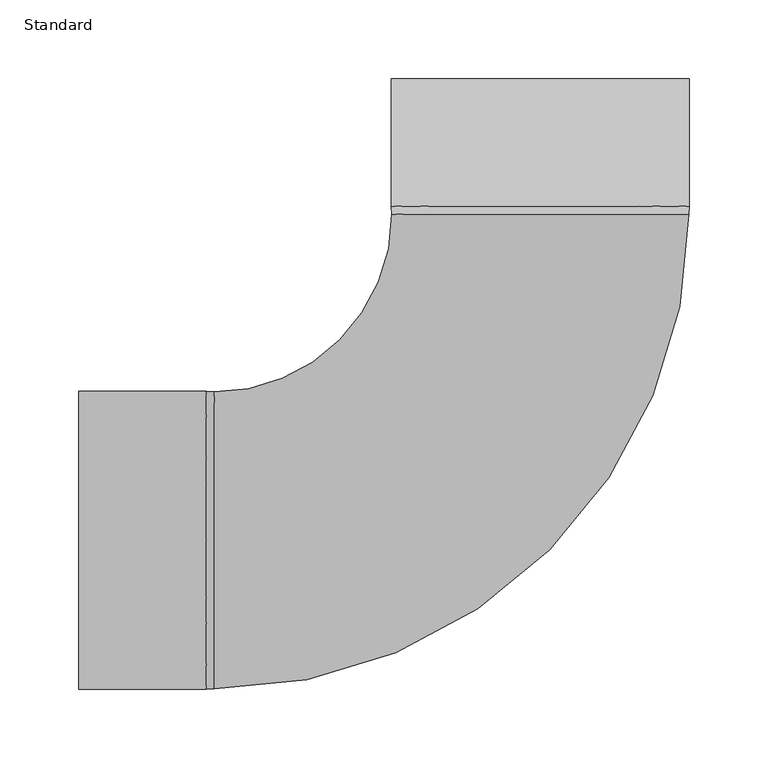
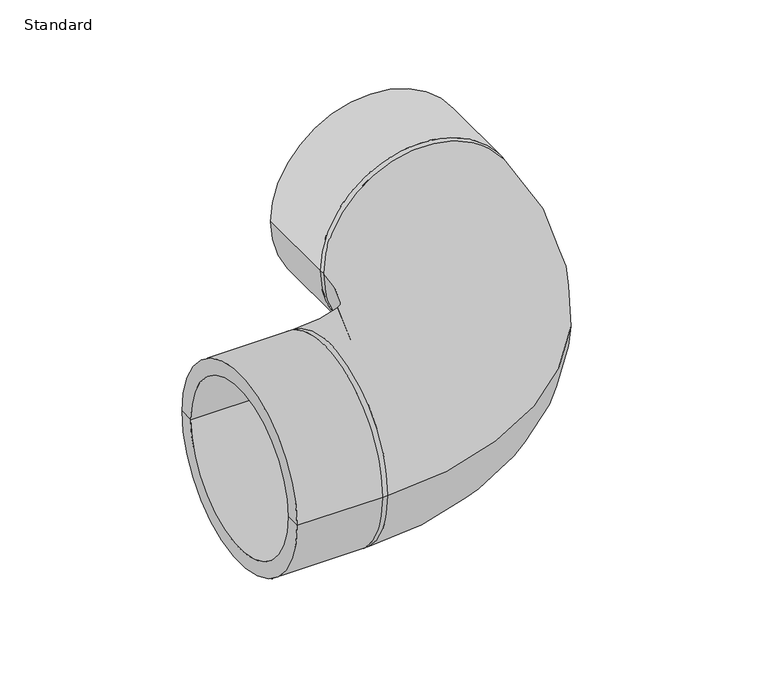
"""IFC4 building model written with IfcOpenShell, lengths in millimetres: pipe fitting geometry, Durapipe_PipeFitting_PVC_SR_Bend90deg : Standard."""

from ifc_helpers import new_model, si_unit, point, frame, origin, place, context, project, spatial, polyline, circle_curve, ellipse_curve, trimmed, source, transform, mapped, element, save
from ifc_brep_helpers import plane_surface, cylinder_surface, revolved_surface, advanced_brep


def standard_0ccd5c58(model_context):
    return source(origin(), model_context, "Body", "AdvancedBrep", [
        advanced_brep(
        [(94.5, 212.0, 0.0), (-94.5, 212.0, 0.0), (-94.5, 293.0, 0.0), (94.5, 293.0, 0.0), (94.2, 207.0, 0.0), (-94.2, 207.0, 0.0), (-80.0, 293.0, 0.0), (80.0, 293.0, 0.0), (-207.0, 94.2, 0.0), (-207.0, -94.2, 0.0), (-293.0, -80.0, 0.0), (-293.0, 80.0, 0.0), (-293.0, 94.5, 0.0), (-293.0, -94.5, 0.0), (-212.0, -94.5, 0.0), (-212.0, 94.5, 0.0), (-212.0, -80.0, 0.0), (-212.0, 80.0, 0.0), (-212.0, 0.0, 0.0), (80.0, 212.0, 0.0), (-80.0, 212.0, 0.0), (0.0, 212.0, 0.0)],
        [
            (0, 1, circle_curve(frame((0.0, 212.0, 0.0), z_axis=(0.0, 1.0, 0.0), x_axis=(-1.0, 0.0, 0.0)), 94.5)),
            (1, 2),
            (2, 3, circle_curve(frame((0.0, 293.0, 0.0), z_axis=(0.0, -1.0, 0.0), x_axis=(-1.0, 0.0, 0.0)), 94.5)),
            (3, 0),
            (1, 0, circle_curve(frame((0.0, 212.0, 0.0), z_axis=(0.0, 1.0, 0.0), x_axis=(-1.0, 0.0, 0.0)), 94.5)),
            (3, 2, circle_curve(frame((0.0, 293.0, 0.0), z_axis=(0.0, -1.0, 0.0), x_axis=(-1.0, 0.0, 0.0)), 94.5)),
            (0, 4),
            (4, 5, circle_curve(frame((0.0, 207.0, 0.0), z_axis=(0.0, 1.0, 0.0), x_axis=(-1.0, 0.0, 0.0)), 94.2)),
            (5, 1),
            (5, 4, circle_curve(frame((0.0, 207.0, 0.0), z_axis=(0.0, 1.0, 0.0), x_axis=(-1.0, 0.0, 0.0)), 94.2)),
            (2, 6),
            (6, 7, circle_curve(frame((0.0, 293.0, 0.0), z_axis=(0.0, -1.0, 0.0), x_axis=(-1.0, 0.0, 0.0)), 80.0)),
            (7, 3),
            (7, 6, circle_curve(frame((0.0, 293.0, 0.0), z_axis=(0.0, -1.0, 0.0), x_axis=(-1.0, 0.0, 0.0)), 80.0)),
            (5, 8, circle_curve(frame((-207.0, 207.0, 0.0), z_axis=(0.0, 0.0, -1.0), x_axis=(0.0, -1.0, 0.0)), 112.8)),
            (8, 9, circle_curve(frame((-207.0, 0.0, 0.0), z_axis=(1.0, 0.0, 0.0), x_axis=(0.0, 1.0, 0.0)), 94.2)),
            (9, 4, circle_curve(frame((-207.0, 207.0, 0.0), z_axis=(0.0, 0.0, 1.0), x_axis=(0.0, -1.0, 0.0)), 301.2)),
            (9, 8, circle_curve(frame((-207.0, 0.0, 0.0), z_axis=(1.0, 0.0, 0.0), x_axis=(0.0, 1.0, 0.0)), 94.2)),
            (10, 11, circle_curve(frame((-293.0, 0.0, 0.0), z_axis=(1.0, 0.0, 0.0), x_axis=(0.0, 1.0, 0.0)), 80.0)),
            (11, 12),
            (12, 13, circle_curve(frame((-293.0, 0.0, 0.0), z_axis=(-1.0, 0.0, 0.0), x_axis=(0.0, 1.0, 0.0)), 94.5)),
            (13, 10),
            (11, 10, circle_curve(frame((-293.0, 0.0, 0.0), z_axis=(1.0, 0.0, 0.0), x_axis=(0.0, 1.0, 0.0)), 80.0)),
            (13, 12, circle_curve(frame((-293.0, 0.0, 0.0), z_axis=(-1.0, 0.0, 0.0), x_axis=(0.0, 1.0, 0.0)), 94.5)),
            (14, 15, circle_curve(frame((-212.0, 0.0, 0.0), z_axis=(1.0, 0.0, 0.0), x_axis=(0.0, 1.0, 0.0)), 94.5)),
            (15, 8),
            (9, 14),
            (15, 14, circle_curve(frame((-212.0, 0.0, 0.0), z_axis=(1.0, 0.0, 0.0), x_axis=(0.0, 1.0, 0.0)), 94.5)),
            (12, 15),
            (14, 13),
            (10, 16),
            (16, 17, circle_curve(frame((-212.0, 0.0, 0.0), z_axis=(1.0, 0.0, 0.0), x_axis=(0.0, 1.0, 0.0)), 80.0)),
            (17, 11),
            (17, 16, circle_curve(frame((-212.0, 0.0, 0.0), z_axis=(1.0, 0.0, 0.0), x_axis=(0.0, 1.0, 0.0)), 80.0)),
            (16, 18),
            (18, 17),
            (19, 20, circle_curve(frame((0.0, 212.0, 0.0), z_axis=(0.0, 1.0, 0.0), x_axis=(-1.0, 0.0, 0.0)), 80.0)),
            (20, 21),
            (21, 19),
            (20, 19, circle_curve(frame((0.0, 212.0, 0.0), z_axis=(0.0, 1.0, 0.0), x_axis=(-1.0, 0.0, 0.0)), 80.0)),
            (6, 20),
            (19, 7),
        ],
        [
            cylinder_surface(frame((0.0, 2236.0, 0.0), z_axis=(0.0, -1.0, 0.0), x_axis=(-1.0, 0.0, 0.0)), 94.5),
            revolved_surface(polyline([(-94.5, 212.0, 0.0), (-94.2, 207.0, 0.0)]), (0.0, 2236.0, 0.0), (0.0, -1.0, 0.0)),
            plane_surface(frame((0.0, 293.0, 0.0), z_axis=(0.0, 1.0, 0.0), x_axis=(-1.0, 0.0, 0.0))),
            revolved_surface(trimmed(ellipse_curve(frame((-207.0, 0.0, 0.0), z_axis=(-1.0, 0.0, 0.0), x_axis=(0.0, 1.0, 0.0)), 94.2, 94.2), [point((-207.0, -94.2, 0.0))], [point((-207.0, 94.2, 0.0))], True, "CARTESIAN"), (-207.0, 207.0, 0.0), (0.0, 0.0, 1.0)),
            revolved_surface(trimmed(ellipse_curve(frame((-207.0, 0.0, 0.0), z_axis=(-1.0, 0.0, 0.0), x_axis=(0.0, 1.0, 0.0)), 94.2, 94.2), [point((-207.0, 94.2, 0.0))], [point((-207.0, -94.2, 0.0))], True, "CARTESIAN"), (-207.0, 207.0, 0.0), (0.0, 0.0, 1.0)),
            plane_surface(frame((-293.0, 0.0, 0.0), z_axis=(-1.0, 0.0, 0.0), x_axis=(0.0, 1.0, 0.0))),
            revolved_surface(polyline([(-207.0, 94.2, 0.0), (-212.0, 94.5, 0.0)]), (2081.5, 0.0, 0.0), (-1.0, 0.0, 0.0)),
            cylinder_surface(frame((2081.5, 0.0, 0.0), z_axis=(-1.0, 0.0, 0.0), x_axis=(0.0, 1.0, 0.0)), 94.5),
            revolved_surface(polyline([(-293.0, 80.0, 0.0), (-212.0, 80.0, 0.0)]), (2081.5, 0.0, 0.0), (-1.0, 0.0, 0.0)),
            plane_surface(frame((-212.0, 0.0, 0.0), z_axis=(-1.0, 0.0, 0.0), x_axis=(0.0, 1.0, 0.0))),
            plane_surface(frame((0.0, 212.0, 0.0), z_axis=(0.0, 1.0, 0.0), x_axis=(-1.0, 0.0, 0.0))),
            revolved_surface(polyline([(-80.0, 212.0, 0.0), (-80.0, 293.0, 0.0)]), (0.0, 2236.0, 0.0), (0.0, -1.0, 0.0)),
        ],
        [
            (0, [[1, 2, 3, 4]]),
            (0, [[-2, 5, -4, 6]]),
            (1, [[-1, 7, 8, 9]]),
            (1, [[-5, -9, 10, -7]]),
            (2, [[-3, 11, 12, 13]]),
            (2, [[-6, -13, 14, -11]]),
            (3, [[15, 16, 17, -10]]),
            (4, [[-15, -8, -17, 18]]),
            (5, [[19, 20, 21, 22]]),
            (5, [[-20, 23, -22, 24]]),
            (6, [[25, 26, -18, 27]]),
            (6, [[-26, 28, -27, -16]]),
            (7, [[-21, 29, -25, 30]]),
            (7, [[-24, -30, -28, -29]]),
            (8, [[-19, 31, 32, 33]]),
            (8, [[-23, -33, 34, -31]]),
            (9, [[-32, 35, 36]]),
            (9, [[-34, -36, -35]]),
            (10, [[37, 38, 39]]),
            (10, [[-38, 40, -39]]),
            (11, [[-12, 41, -37, 42]]),
            (11, [[-14, -42, -40, -41]]),
        ],
    ),
    ])


if __name__ == "__main__":
    model = new_model("IFC4")
    model_context = context("Model", 3, world=origin())
    ifc_project = project(units=[si_unit("LENGTHUNIT", "METRE", prefix="MILLI")], contexts=[model_context])
    site = spatial("IfcSite", under=ifc_project)
    building = spatial("IfcBuilding", under=site)
    placement = place(None, origin())
    standard_shape = standard_0ccd5c58(model_context)
    element("IfcPipeFitting", 1, ObjectType="Durapipe_PipeFitting_PVC_SR_Bend90deg : Standard", at=placement, inside=building, context=model_context, shape_type="MappedRepresentation", body=[
        mapped(standard_shape, transform((0.0, 0.0, 0.0), x_axis=(1.0, 0.0, 0.0), y_axis=(0.0, 1.0, 0.0), z_axis=(0.0, 0.0, 1.0))),
    ])
    save(model, "model.ifc")
